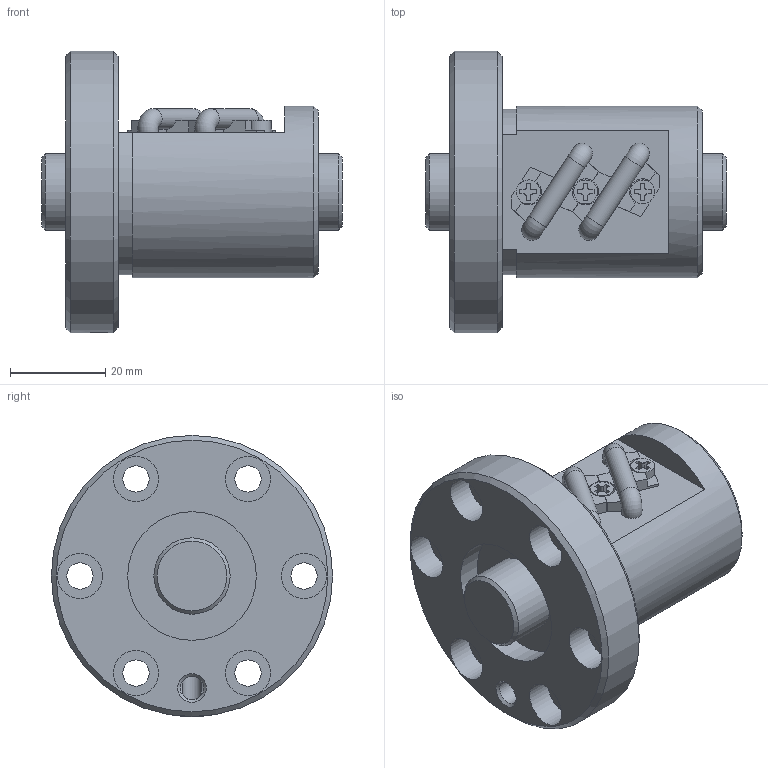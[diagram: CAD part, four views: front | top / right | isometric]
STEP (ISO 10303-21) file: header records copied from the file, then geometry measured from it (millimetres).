
FILE_DESCRIPTION(/* description */ ('STEP AP203'),/* implementation_level */ '2;1');
FILE_NAME(/* name */ 'BNF1604V-5RRG1+63LC0_000_rev',/* time_stamp */ '2024-08-06T07:27:18+02:00',/* author */ ('License CC BY-ND 4.0'),/* organization */ ('CADENAS'),/* preprocessor_version */ 'ST-DEVELOPER v19.3',/* originating_system */ 'PARTsolutions',/* authorisation */ ' ');
FILE_SCHEMA (('CONFIG_CONTROL_DESIGN'));
Length unit declared in the file: millimetre
Products named in the file (3): BNF1604V-5RRG1+63LC0_000_rev; BNF 1604V-5RR000 Shaft; BNF 1604V-5RR Nut
Assembly tree (2 placements, depth 2):
  BNF1604V-5RRG1+63LC0_000_rev
    BNF 1604V-5RR000 Shaft
    BNF 1604V-5RR Nut
Bounding box: 63 x 59 x 59 mm (x, y, z)
Volume: 64875.9 mm3; surface area: 20595.4 mm2
Topology: 2 solids, 2 shells, 167 faces, 436 edges, 286 vertices
Faces by surface type: plane 108, cylinder 47, cone 8, torus 4
Full cylindrical faces by diameter (mm): 4 x2, 4.3 x2, 4.917 x1, 5 x3, 5.5 x6, 9.5 x6, 16 x2, 27 x2, 36 x1, 59 x1
Entity records: 5048 total; most frequent: CARTESIAN_POINT 951, DIRECTION 836, ORIENTED_EDGE 784, EDGE_CURVE 392, AXIS2_PLACEMENT_3D 292, VERTEX_POINT 276, LINE 252, VECTOR 252
